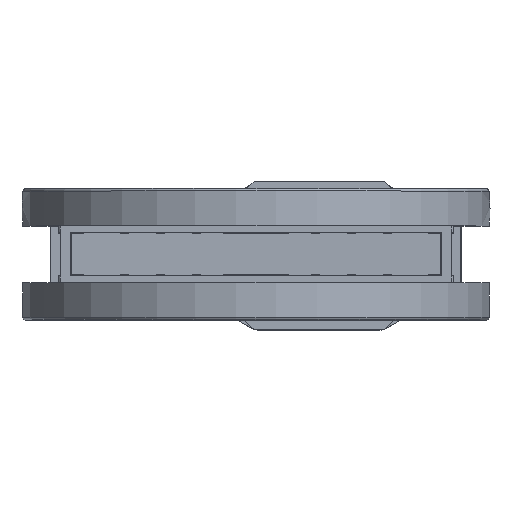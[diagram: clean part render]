
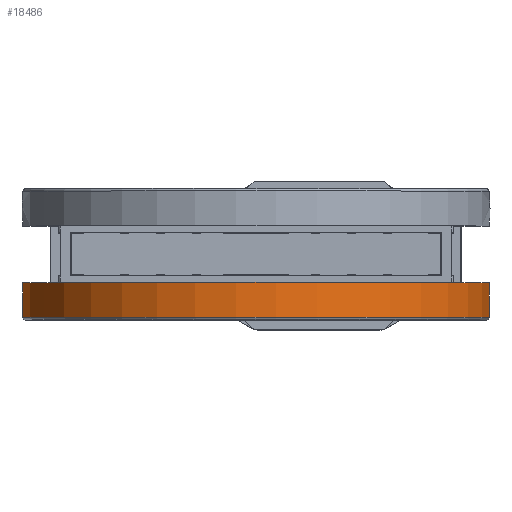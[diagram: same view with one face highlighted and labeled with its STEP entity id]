
A CAD part, top view. The second image highlights one B-rep face of the part: STEP entity #18486.
In plain terms, the highlighted cylindrical face has radius 142.5 mm (diameter 285 mm), a full revolution.
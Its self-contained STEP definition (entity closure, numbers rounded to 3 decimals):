
#18486=ADVANCED_FACE('BCT_REF_56374',(#20167,#20168),#19704,.T.);
#19704=CYLINDRICAL_SURFACE('',#41212,142.5);
#20167=FACE_BOUND('',#21858,.T.);
#20168=FACE_BOUND('',#21859,.T.);
#21858=EDGE_LOOP('',(#26964));
#21859=EDGE_LOOP('',(#26965));
#26964=ORIENTED_EDGE('',*,*,#37043,.F.);
#26965=ORIENTED_EDGE('',*,*,#37049,.T.);
#33387=VERTEX_POINT('',#55145);
#33393=VERTEX_POINT('',#55162);
#37043=EDGE_CURVE('',#33387,#33387,#39770,.T.);
#37049=EDGE_CURVE('',#33393,#33393,#39776,.T.);
#39770=CIRCLE('',#41199,142.5);
#39776=CIRCLE('',#41210,142.5);
#41199=AXIS2_PLACEMENT_3D('',#55144,#45923,#45924);
#41210=AXIS2_PLACEMENT_3D('',#55161,#45945,#45946);
#41212=AXIS2_PLACEMENT_3D('',#55164,#45949,#45950);
#45923=DIRECTION('',(0.,-1.,0.));
#45924=DIRECTION('',(0.966,0.,-0.259));
#45945=DIRECTION('',(0.,-1.,0.));
#45946=DIRECTION('',(0.966,0.,-0.259));
#45949=DIRECTION('',(0.,-1.,0.));
#45950=DIRECTION('',(0.966,0.,-0.259));
#55144=CARTESIAN_POINT('',(0.,-38.425,412.));
#55145=CARTESIAN_POINT('',(137.644,-38.425,375.118));
#55161=CARTESIAN_POINT('',(0.,-17.225,412.));
#55162=CARTESIAN_POINT('',(137.644,-17.225,375.118));
#55164=CARTESIAN_POINT('',(0.,-39.925,412.));
